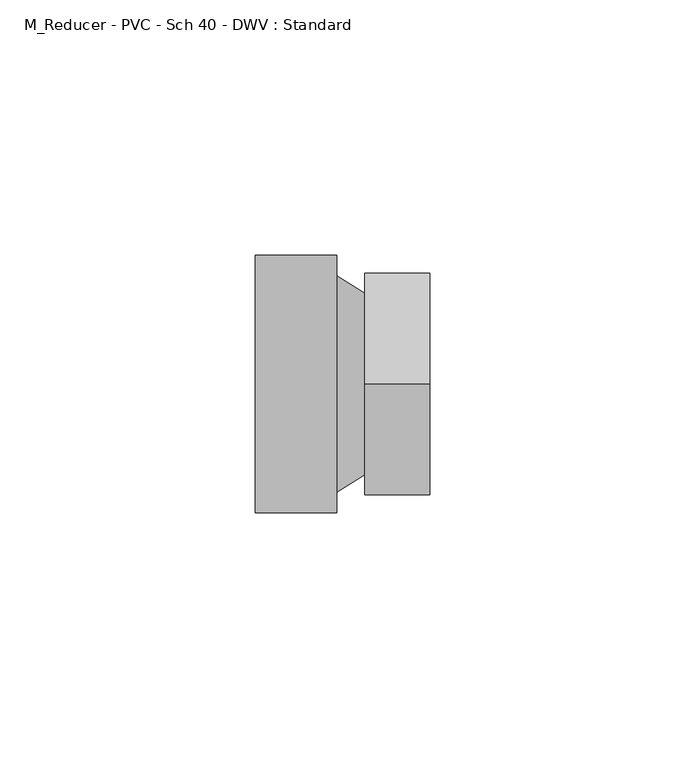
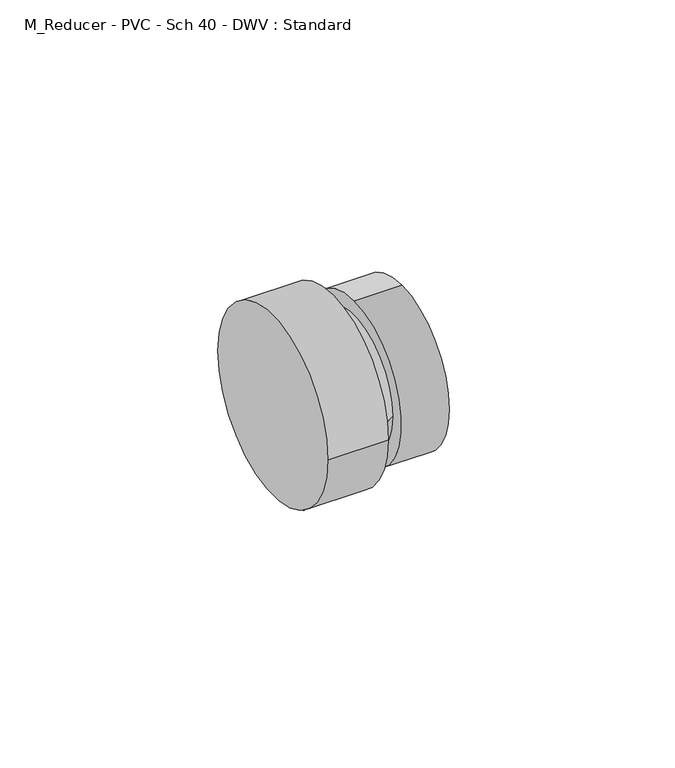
"""IFC4 building model written with IfcOpenShell, lengths in millimetres: pipe fitting geometry, M_Reducer - PVC - Sch 40 - DWV : Standard."""

import ifcopenshell
import ifcopenshell.guid

model = None  # the IFC model being written
_history = None  # IfcOwnerHistory: only IFC2X3 demands one
_inside = {}  # id of a spatial element -> (the spatial element, [elements in it])
_under = {}  # id of a project, library or spatial element -> (it, [spatial elements below it])
_declared = {}  # id of a project -> (the project, [libraries it declares])
_typed = {}  # id of a type object -> (the type object, [elements of that type])
_made_of = {}  # id of a material, layer set ... -> (it, [elements and type objects made of it])


def new_model(schema):
    """Start an empty IFC model of exactly this schema.

    Asked for "IFC4X3", IfcOpenShell would pick the latest addendum, in which some entities
    have other attributes; the version numbers below select the first issue.
    IFC2X3 requires an IfcOwnerHistory on every rooted entity: one is made here for all.
    """
    global model, _history
    if schema == "IFC4X3":
        model = ifcopenshell.file(schema_version=(4, 3, 0, 0))
    else:
        model = ifcopenshell.file(schema=schema)
    _inside.clear()
    _under.clear()
    _declared.clear()
    _typed.clear()
    _made_of.clear()
    _history = None
    if model.schema == "IFC2X3":
        org = make("IfcOrganization", Name="unknown")
        user = make(
            "IfcPersonAndOrganization",
            ThePerson=make("IfcPerson", FamilyName="unknown"),
            TheOrganization=org,
        )
        app = make(
            "IfcApplication",
            ApplicationDeveloper=org,
            Version="unknown",
            ApplicationFullName="unknown",
            ApplicationIdentifier="unknown",
        )
        _history = make(
            "IfcOwnerHistory",
            OwningUser=user,
            OwningApplication=app,
            ChangeAction="ADDED",
            CreationDate=0,
        )
    return model


def make(cls, **values):
    """One entity of the class cls with the attributes given. An attribute that is None is left unset."""
    return model.create_entity(
        cls, **{name: value for name, value in values.items() if value is not None}
    )


def rooted(cls, **values):
    """An entity with a GlobalId (a new one), such as an element, a storey or a relation."""
    return make(cls, GlobalId=ifcopenshell.guid.new(), OwnerHistory=_history, **values)


def si_unit(unit_type, name, prefix=None):
    """IfcSIUnit, for example si_unit("LENGTHUNIT", "METRE", prefix="MILLI")."""
    return make("IfcSIUnit", UnitType=unit_type, Prefix=prefix, Name=name)


def assignment(units):
    """IfcUnitAssignment: the units of a project."""
    return None if units is None else make("IfcUnitAssignment", Units=units)


def point(xyz):
    """IfcCartesianPoint."""
    return None if xyz is None else make("IfcCartesianPoint", Coordinates=xyz)


def direction(xyz):
    """IfcDirection."""
    return None if xyz is None else make("IfcDirection", DirectionRatios=xyz)


def frame(location, z_axis=None, x_axis=None):
    """IfcAxis2Placement3D, a coordinate frame: its origin and axes. An axis left out is left unset."""
    return make(
        "IfcAxis2Placement3D",
        Location=point(location),
        Axis=direction(z_axis),
        RefDirection=direction(x_axis),
    )


def origin():
    """The frame at (0, 0, 0) with its axes left unset."""
    return frame((0.0, 0.0, 0.0))


def place(relative_to, where):
    """IfcLocalPlacement: puts the frame where relative to a parent placement (None: the world)."""
    return make(
        "IfcLocalPlacement", PlacementRelTo=relative_to, RelativePlacement=where
    )


def context(
    kind, dimensions, precision=None, world=None, true_north=None, identifier=None
):
    """IfcGeometricRepresentationContext, for example the 3D "Model" context."""
    return make(
        "IfcGeometricRepresentationContext",
        ContextIdentifier=identifier,
        ContextType=kind,
        CoordinateSpaceDimension=dimensions,
        Precision=precision,
        WorldCoordinateSystem=world,
        TrueNorth=true_north,
    )


def project(units=None, contexts=None):
    """IfcProject with its units and contexts."""
    return rooted(
        "IfcProject",
        Name="project",
        RepresentationContexts=contexts,
        UnitsInContext=assignment(units),
    )


def spatial(cls, under=None, at=None, **own):
    """A site, building, storey or space (cls), placed at a placement, below another one or the project."""
    s = rooted(cls, ObjectPlacement=at, **own)
    if under is not None:
        _under.setdefault(under.id(), (under, []))[1].append(s)
    return s


def polyline(points):
    """IfcPolyline through the points."""
    return make("IfcPolyline", Points=[point(p) for p in points])


def circle_curve(where, radius):
    """IfcCircle in the frame where."""
    return make("IfcCircle", Position=where, Radius=radius)


def shape(context_of_items, identifier, shape_type, items):
    """IfcShapeRepresentation: the items that make up one representation, for example the "Body"."""
    return make(
        "IfcShapeRepresentation",
        ContextOfItems=context_of_items,
        RepresentationIdentifier=identifier,
        RepresentationType=shape_type,
        Items=items,
    )


def source(mapping_origin, context_of_items, identifier, shape_type, items):
    """IfcRepresentationMap: a shape defined once, which mapped items show again and again."""
    return make(
        "IfcRepresentationMap",
        MappingOrigin=mapping_origin,
        MappedRepresentation=shape(context_of_items, identifier, shape_type, items),
    )


def transform(
    local_origin,
    x_axis=None,
    y_axis=None,
    z_axis=None,
    scale=None,
    scale2=None,
    scale3=None,
    uniform=True,
):
    """IfcCartesianTransformationOperator3D, or its non-uniform kind. x_axis, y_axis, z_axis: its Axis1, 2, 3."""
    if uniform:
        return make(
            "IfcCartesianTransformationOperator3D",
            Axis1=direction(x_axis),
            Axis2=direction(y_axis),
            LocalOrigin=point(local_origin),
            Scale=scale,
            Axis3=direction(z_axis),
        )
    return make(
        "IfcCartesianTransformationOperator3DnonUniform",
        Axis1=direction(x_axis),
        Axis2=direction(y_axis),
        LocalOrigin=point(local_origin),
        Scale=scale,
        Axis3=direction(z_axis),
        Scale2=scale2,
        Scale3=scale3,
    )


def mapped(mapping_source, mapping_target):
    """IfcMappedItem: shows the shape of a source again, moved by a transform."""
    return make(
        "IfcMappedItem", MappingSource=mapping_source, MappingTarget=mapping_target
    )


def made_of(thing, what):
    """Note that an element or type object is made of a material, layer set ...; save() writes the relation."""
    if what is not None:
        _made_of.setdefault(what.id(), (what, []))[1].append(thing)
    return thing


def element(
    cls,
    number,
    at=None,
    inside=None,
    cuts=None,
    type_object=None,
    material=None,
    context=None,
    identifier="Body",
    shape_type=None,
    held_by="IfcProductDefinitionShape",
    body=None,
    shapes=None,
    **own,
):
    """One element of the class cls, such as IfcWall. Its Tag is "e" and its number.

    at: its placement. inside: the storey or other place that contains it. cuts: it is an
    opening in that element (IfcRelVoidsElement). A single representation is given by context,
    identifier, shape_type and body (its items); several are given by shapes. held_by: the class
    of the entity that holds the representations. save() writes the other relations.
    """
    e = rooted(cls, Tag="e%d" % number, ObjectPlacement=at, **own)
    if body is not None:
        shapes = [shape(context, identifier, shape_type, body)]
    if shapes is not None:
        e.Representation = make(held_by, Representations=shapes)
    if inside is not None:
        _inside.setdefault(inside.id(), (inside, []))[1].append(e)
    if cuts is not None:
        rooted(
            "IfcRelVoidsElement", RelatingBuildingElement=cuts, RelatedOpeningElement=e
        )
    if type_object is not None:
        _typed.setdefault(type_object.id(), (type_object, []))[1].append(e)
    return made_of(e, material)


def aggregate(whole, parts):
    """IfcRelAggregates: a whole, such as a stair, and the parts it consists of."""
    return rooted("IfcRelAggregates", RelatingObject=whole, RelatedObjects=parts)


def save(model, path):
    """Write the relations noted so far, then the file.

    IfcRelAggregates (storeys below a building ...), IfcRelContainedInSpatialStructure (elements
    in a storey), IfcRelDefinesByType, IfcRelAssociatesMaterial and IfcRelDeclares: one each for
    every whole, place, type object, material and project.
    """
    for whole, parts in _under.values():
        aggregate(whole, parts)
    for where, things in _inside.values():
        rooted(
            "IfcRelContainedInSpatialStructure",
            RelatedElements=things,
            RelatingStructure=where,
        )
    for kind, things in _typed.values():
        rooted("IfcRelDefinesByType", RelatedObjects=things, RelatingType=kind)
    for what, things in _made_of.values():
        rooted("IfcRelAssociatesMaterial", RelatedObjects=things, RelatingMaterial=what)
    for by, libraries in _declared.values():
        rooted("IfcRelDeclares", RelatingContext=by, RelatedDefinitions=libraries)
    model.write(path)


def plane_surface(at):
    """IfcPlane: the flat surface through the origin of the frame at, square to its z axis."""
    return make("IfcPlane", Position=at)


def cylinder_surface(at, radius):
    """IfcCylindricalSurface: all points at the distance radius from the z axis of the frame at."""
    return make("IfcCylindricalSurface", Position=at, Radius=radius)


def revolved_surface(curve, axis_point, axis_direction):
    """IfcSurfaceOfRevolution: the curve turned about the line through axis_point along axis_direction."""
    return make(
        "IfcSurfaceOfRevolution",
        SweptCurve=make("IfcArbitraryOpenProfileDef", ProfileType="CURVE", Curve=curve),
        AxisPosition=make("IfcAxis1Placement", Location=point(axis_point), Axis=direction(axis_direction)),
    )


def advanced_brep(points, edges, surfaces, faces):
    """IfcAdvancedBrep: a solid bounded by faces that lie on surfaces and meet in shared edges.

    An edge is (start, end): straight between two places in points (the first is 0);
    or (start, end, curve); or (start, end, curve, False) where it runs against its curve.
    A face is (place in surfaces, loops), or (place, loops, False) where it looks against
    its surface's normal. A loop lists edges by number (the first is 1), with a minus sign
    where the edge is run from its end to its start. The first loop is the outer one.
    """
    corners = [point(p) for p in points]
    vertices = [make("IfcVertexPoint", VertexGeometry=c) for c in corners]
    made = []
    for start, end, *more in edges:
        made.append(
            make(
                "IfcEdgeCurve",
                EdgeStart=vertices[start],
                EdgeEnd=vertices[end],
                EdgeGeometry=more[0] if more else make("IfcPolyline", Points=[corners[start], corners[end]]),
                SameSense=more[1] if len(more) > 1 else True,
            )
        )
    hull = []
    for where, loops, *sense in faces:
        bounds = []
        for j, loop in enumerate(loops):
            ring = [make("IfcOrientedEdge", EdgeElement=made[abs(k) - 1], Orientation=k > 0) for k in loop]
            bounds.append(
                make(
                    "IfcFaceOuterBound" if j == 0 else "IfcFaceBound",
                    Bound=make("IfcEdgeLoop", EdgeList=ring),
                    Orientation=True,
                )
            )
        hull.append(make("IfcAdvancedFace", Bounds=bounds, FaceSurface=surfaces[where], SameSense=sense[0] if sense else True))
    return make("IfcAdvancedBrep", Outer=make("IfcClosedShell", CfsFaces=hull))


def m_reducer_pvc_sch_40_dwv_standard_41a52ca3(model_context):
    return source(origin(), model_context, "Body", "AdvancedBrep", [
        advanced_brep(
        [(0.0, -25.2671094, 0.0), (0.0, 25.2671094, 0.0), (16.0, -25.2671094, 0.0), (16.0, 25.2671094, 0.0), (16.0, 21.2040625, 0.0), (16.0, -21.2040625, 0.0), (21.4980938, 17.7720625, 0.0), (21.4980937, -17.7720625, 0.0), (21.4980938, 0.0, 21.7031094), (21.4980938, 0.0, -21.7031094), (34.1980938, 0.0, 21.7031094), (34.1980938, 0.0, -21.7031094)],
        [
            (0, 1, circle_curve(frame((0.0, 0.0, 0.0), z_axis=(-1.0, 0.0, 0.0), x_axis=(0.0, 1.0, 0.0)), 25.2671094)),
            (1, 0, circle_curve(frame((0.0, 0.0, 0.0), z_axis=(-1.0, 0.0, 0.0), x_axis=(0.0, 1.0, 0.0)), 25.2671094)),
            (2, 3, circle_curve(frame((16.0, 0.0, 0.0), z_axis=(1.0, 0.0, 0.0), x_axis=(0.0, 1.0, 0.0)), 25.2671094)),
            (3, 2, circle_curve(frame((16.0, 0.0, 0.0), z_axis=(1.0, 0.0, 0.0), x_axis=(0.0, 1.0, 0.0)), 25.2671094)),
            (4, 5, circle_curve(frame((16.0, 0.0, 0.0), z_axis=(-1.0, 1.0709329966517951e-12, 0.0), x_axis=(-1.0709719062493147e-12, -1.0, 0.0)), 21.2040625)),
            (5, 4, circle_curve(frame((16.0, 0.0, 0.0), z_axis=(-1.0, 1.0709329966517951e-12, 0.0), x_axis=(1.0709719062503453e-12, 1.0, 0.0)), 21.2040625)),
            (0, 2),
            (3, 1),
            (4, 6),
            (6, 7, circle_curve(frame((21.4980938, 0.0, 0.0), z_axis=(-1.0, 1.0709329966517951e-12, 0.0), x_axis=(-1.0709719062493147e-12, -1.0, 0.0)), 17.7720625)),
            (7, 5),
            (7, 6, circle_curve(frame((21.4980938, 0.0, 0.0), z_axis=(-1.0, 1.0709329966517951e-12, 0.0), x_axis=(1.0709719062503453e-12, 1.0, 0.0)), 17.7720625)),
            (8, 9, circle_curve(frame((21.4980938, 0.0, 0.0), z_axis=(-1.0, 0.0, 0.0), x_axis=(0.0, 0.0, -1.0)), 21.7031094)),
            (9, 8, circle_curve(frame((21.4980938, 0.0, 0.0), z_axis=(-1.0, 0.0, 0.0), x_axis=(0.0, 0.0, -1.0)), 21.7031094)),
            (10, 11, circle_curve(frame((34.1980938, 0.0, 0.0), z_axis=(1.0, 0.0, 0.0), x_axis=(0.0, 0.0, -1.0)), 21.7031094)),
            (11, 10, circle_curve(frame((34.1980938, 0.0, 0.0), z_axis=(1.0, 0.0, 0.0), x_axis=(0.0, 0.0, -1.0)), 21.7031094)),
            (8, 10),
            (11, 9),
        ],
        [
            plane_surface(frame((0.0, 0.0, 0.0), z_axis=(-1.0, 0.0, 0.0), x_axis=(0.0, 0.0, 1.0))),
            plane_surface(frame((16.0, 0.0, 0.0), z_axis=(1.0, 0.0, 0.0), x_axis=(0.0, 0.0, 1.0))),
            cylinder_surface(frame((0.0, 0.0, 0.0), z_axis=(-1.0, 0.0, 0.0), x_axis=(0.0, 1.0, 0.0)), 25.2671094),
            revolved_surface(polyline([(21.498093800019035, 17.772062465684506, 0.0), (16.0, 21.2040625, 0.0)]), (49.9690919, 0.0, 0.0), (-1.0, 1.0709329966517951e-12, 0.0)),
            plane_surface(frame((21.4980938, 0.0, 0.0), z_axis=(-1.0, 0.0, 0.0), x_axis=(0.0, 1.0, 0.0))),
            plane_surface(frame((34.1980938, 0.0, 0.0), z_axis=(1.0, 0.0, 0.0), x_axis=(0.0, 1.0, 0.0))),
            cylinder_surface(frame((21.4980938, 0.0, 0.0), z_axis=(-1.0, 0.0, 0.0), x_axis=(0.0, 0.0, -1.0)), 21.7031094),
        ],
        [
            (0, [[1, 2]]),
            (1, [[3, 4], [5, 6]]),
            (2, [[-1, 7, -4, 8]]),
            (2, [[-2, -8, -3, -7]]),
            (3, [[9, 10, 11, -5]]),
            (3, [[-9, -6, -11, 12]]),
            (4, [[13, 14], [-10, -12]]),
            (5, [[15, 16]]),
            (6, [[-13, 17, -16, 18]]),
            (6, [[-14, -18, -15, -17]]),
        ],
    ),
    ])


if __name__ == "__main__":
    model = new_model("IFC4")
    model_context = context("Model", 3, world=origin())
    ifc_project = project(units=[si_unit("LENGTHUNIT", "METRE", prefix="MILLI")], contexts=[model_context])
    site = spatial("IfcSite", under=ifc_project)
    building = spatial("IfcBuilding", under=site)
    placement = place(None, origin())
    m_reducer_pvc_sch_40_dwv_standard_shape = m_reducer_pvc_sch_40_dwv_standard_41a52ca3(model_context)
    element("IfcPipeFitting", 1, ObjectType="M_Reducer - PVC - Sch 40 - DWV : Standard", at=placement, inside=building, context=model_context, shape_type="MappedRepresentation", body=[
        mapped(m_reducer_pvc_sch_40_dwv_standard_shape, transform((0.0, 0.0, 0.0), x_axis=(1.0, 0.0, 0.0), y_axis=(0.0, 1.0, 0.0), z_axis=(0.0, 0.0, 1.0))),
    ])
    save(model, "model.ifc")
